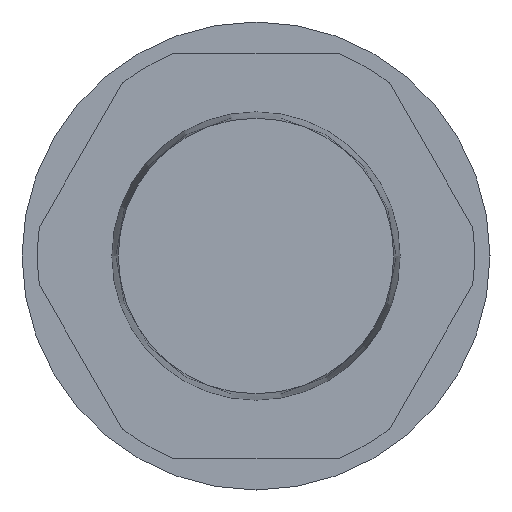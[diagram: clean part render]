
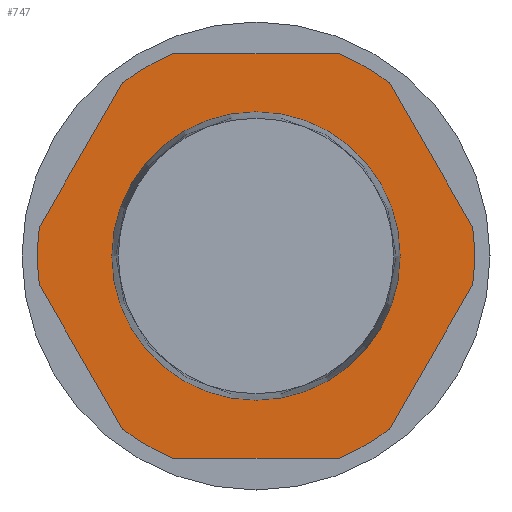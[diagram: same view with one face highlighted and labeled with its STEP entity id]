
A CAD part, left-side view. The second image highlights one B-rep face of the part: STEP entity #747.
In plain terms, the highlighted planar face has unit normal (-1, 0, 0).
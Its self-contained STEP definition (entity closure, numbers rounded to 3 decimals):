
#121=CARTESIAN_POINT('',(-29.69,13.55,0.));
#122=VERTEX_POINT('',#121);
#123=CARTESIAN_POINT('',(-29.69,0.0,0.0));
#124=DIRECTION('',(1.0,0.0,0.0));
#125=DIRECTION('',(0.0,-1.0,0.0));
#126=AXIS2_PLACEMENT_3D('',#123,#124,#125);
#127=CIRCLE('',#126,13.55);
#128=EDGE_CURVE('',#122,#122,#127,.T.);
#460=CARTESIAN_POINT('',(-29.69,20.369,2.719));
#461=VERTEX_POINT('',#460);
#469=CARTESIAN_POINT('',(-29.69,20.369,-2.719));
#470=VERTEX_POINT('',#469);
#477=CARTESIAN_POINT('',(-29.69,0.0,0.0));
#478=DIRECTION('',(1.0,0.0,0.0));
#479=DIRECTION('',(0.0,-1.0,0.0));
#480=AXIS2_PLACEMENT_3D('',#477,#478,#479);
#481=CIRCLE('',#480,20.55);
#482=EDGE_CURVE('',#470,#461,#481,.T.);
#492=CARTESIAN_POINT('',(-29.69,7.83,-19.0));
#493=VERTEX_POINT('',#492);
#500=CARTESIAN_POINT('',(-29.69,12.54,-16.281));
#501=VERTEX_POINT('',#500);
#502=CARTESIAN_POINT('',(-29.69,0.0,0.0));
#503=DIRECTION('',(1.0,0.0,0.0));
#504=DIRECTION('',(0.0,-1.0,0.0));
#505=AXIS2_PLACEMENT_3D('',#502,#503,#504);
#506=CIRCLE('',#505,20.55);
#507=EDGE_CURVE('',#493,#501,#506,.T.);
#524=CARTESIAN_POINT('',(-29.69,7.83,19.));
#525=VERTEX_POINT('',#524);
#533=CARTESIAN_POINT('',(-29.69,12.54,16.281));
#534=VERTEX_POINT('',#533);
#541=CARTESIAN_POINT('',(-29.69,0.0,0.0));
#542=DIRECTION('',(1.0,0.0,0.0));
#543=DIRECTION('',(0.0,-1.0,0.0));
#544=AXIS2_PLACEMENT_3D('',#541,#542,#543);
#545=CIRCLE('',#544,20.55);
#546=EDGE_CURVE('',#534,#525,#545,.T.);
#556=CARTESIAN_POINT('',(-29.69,-12.54,-16.281));
#557=VERTEX_POINT('',#556);
#564=CARTESIAN_POINT('',(-29.69,-7.83,-19.0));
#565=VERTEX_POINT('',#564);
#566=CARTESIAN_POINT('',(-29.69,0.0,0.0));
#567=DIRECTION('',(1.0,0.0,0.0));
#568=DIRECTION('',(0.0,-1.0,0.0));
#569=AXIS2_PLACEMENT_3D('',#566,#567,#568);
#570=CIRCLE('',#569,20.55);
#571=EDGE_CURVE('',#557,#565,#570,.T.);
#588=CARTESIAN_POINT('',(-29.69,-12.54,16.281));
#589=VERTEX_POINT('',#588);
#597=CARTESIAN_POINT('',(-29.69,-7.83,19.));
#598=VERTEX_POINT('',#597);
#605=CARTESIAN_POINT('',(-29.69,0.0,0.0));
#606=DIRECTION('',(1.0,0.0,0.0));
#607=DIRECTION('',(0.0,-1.0,0.0));
#608=AXIS2_PLACEMENT_3D('',#605,#606,#607);
#609=CIRCLE('',#608,20.55);
#610=EDGE_CURVE('',#598,#589,#609,.T.);
#620=CARTESIAN_POINT('',(-29.69,-20.369,2.719));
#621=VERTEX_POINT('',#620);
#628=CARTESIAN_POINT('',(-29.69,-20.369,-2.719));
#629=VERTEX_POINT('',#628);
#630=CARTESIAN_POINT('',(-29.69,0.0,0.0));
#631=DIRECTION('',(1.0,0.0,0.0));
#632=DIRECTION('',(0.0,-1.0,0.0));
#633=AXIS2_PLACEMENT_3D('',#630,#631,#632);
#634=CIRCLE('',#633,20.55);
#635=EDGE_CURVE('',#621,#629,#634,.T.);
#653=CARTESIAN_POINT('',(-29.69,-20.369,-2.719));
#654=DIRECTION('',(0.0,0.5,-0.866));
#655=VECTOR('',#654,15.659);
#656=LINE('',#653,#655);
#657=EDGE_CURVE('',#629,#557,#656,.T.);
#672=CARTESIAN_POINT('',(-29.69,7.83,19.));
#673=DIRECTION('',(0.0,-1.0,0.0));
#674=VECTOR('',#673,15.659);
#675=LINE('',#672,#674);
#676=EDGE_CURVE('',#525,#598,#675,.T.);
#687=CARTESIAN_POINT('',(-29.69,-7.83,-19.0));
#688=DIRECTION('',(0.0,1.0,0.0));
#689=VECTOR('',#688,15.659);
#690=LINE('',#687,#689);
#691=EDGE_CURVE('',#565,#493,#690,.T.);
#706=CARTESIAN_POINT('',(-29.69,20.369,2.719));
#707=DIRECTION('',(0.0,-0.5,0.866));
#708=VECTOR('',#707,15.659);
#709=LINE('',#706,#708);
#710=EDGE_CURVE('',#461,#534,#709,.T.);
#715=CARTESIAN_POINT('',(-29.69,0.,0.));
#716=DIRECTION('',(1.0,0.0,0.0));
#717=DIRECTION('',(0.0,0.0,-1.0));
#718=AXIS2_PLACEMENT_3D('',#715,#716,#717);
#719=PLANE('',#718);
#720=ORIENTED_EDGE('',*,*,#610,.F.);
#721=ORIENTED_EDGE('',*,*,#676,.F.);
#722=ORIENTED_EDGE('',*,*,#546,.F.);
#723=ORIENTED_EDGE('',*,*,#710,.F.);
#724=ORIENTED_EDGE('',*,*,#482,.F.);
#725=CARTESIAN_POINT('',(-29.69,12.54,-16.281));
#726=DIRECTION('',(0.0,0.5,0.866));
#727=VECTOR('',#726,15.659);
#728=LINE('',#725,#727);
#729=EDGE_CURVE('',#501,#470,#728,.T.);
#730=ORIENTED_EDGE('',*,*,#729,.F.);
#731=ORIENTED_EDGE('',*,*,#507,.F.);
#732=ORIENTED_EDGE('',*,*,#691,.F.);
#733=ORIENTED_EDGE('',*,*,#571,.F.);
#734=ORIENTED_EDGE('',*,*,#657,.F.);
#735=ORIENTED_EDGE('',*,*,#635,.F.);
#736=CARTESIAN_POINT('',(-29.69,-12.54,16.281));
#737=DIRECTION('',(0.0,-0.5,-0.866));
#738=VECTOR('',#737,15.659);
#739=LINE('',#736,#738);
#740=EDGE_CURVE('',#589,#621,#739,.T.);
#741=ORIENTED_EDGE('',*,*,#740,.F.);
#742=EDGE_LOOP('',(#720,#721,#722,#723,#724,#730,#731,#732,#733,#734,#735,#741));
#743=FACE_OUTER_BOUND('',#742,.T.);
#744=ORIENTED_EDGE('',*,*,#128,.T.);
#745=EDGE_LOOP('',(#744));
#746=FACE_BOUND('',#745,.T.);
#747=ADVANCED_FACE('',(#743,#746),#719,.F.);
